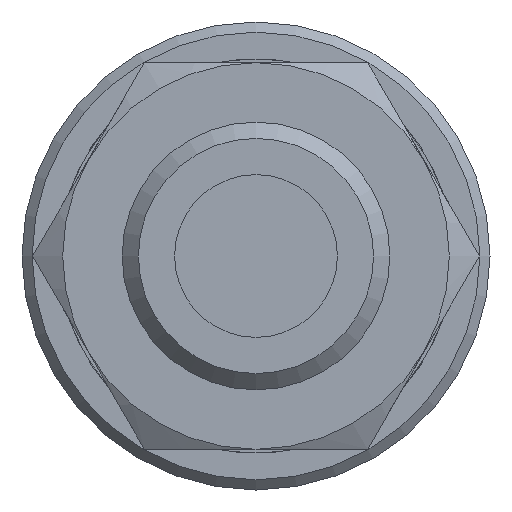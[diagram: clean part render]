
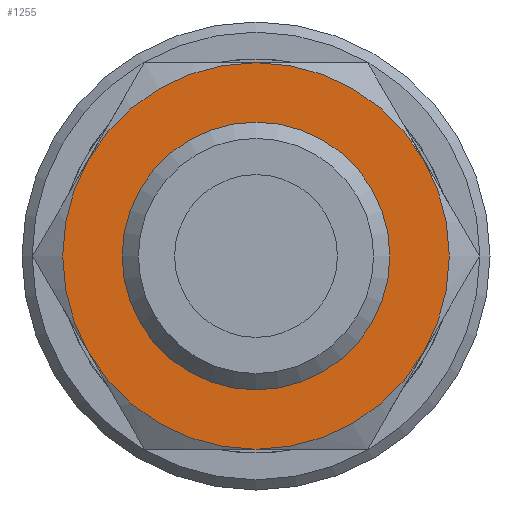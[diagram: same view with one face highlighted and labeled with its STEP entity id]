
A CAD part, left-side view. The second image highlights one B-rep face of the part: STEP entity #1255.
In plain terms, the highlighted planar face has unit normal (-1, 0, 0).
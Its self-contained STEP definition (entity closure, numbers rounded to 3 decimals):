
#68=FACE_BOUND('',#252,.T.);
#95=PLANE('',#1454);
#167=FACE_OUTER_BOUND('',#251,.T.);
#251=EDGE_LOOP('',(#1148,#1149,#1150,#1151,#1152,#1153));
#252=EDGE_LOOP('',(#1154,#1155));
#434=CIRCLE('',#1370,6.579);
#435=CIRCLE('',#1371,6.579);
#449=CIRCLE('',#1398,9.5);
#450=CIRCLE('',#1400,9.5);
#451=CIRCLE('',#1402,9.5);
#452=CIRCLE('',#1404,9.5);
#453=CIRCLE('',#1406,9.5);
#454=CIRCLE('',#1408,9.5);
#541=VERTEX_POINT('',#2051);
#542=VERTEX_POINT('',#2052);
#562=VERTEX_POINT('',#2149);
#563=VERTEX_POINT('',#2153);
#565=VERTEX_POINT('',#2160);
#567=VERTEX_POINT('',#2170);
#569=VERTEX_POINT('',#2183);
#571=VERTEX_POINT('',#2193);
#676=EDGE_CURVE('',#541,#542,#434,.T.);
#677=EDGE_CURVE('',#542,#541,#435,.T.);
#718=EDGE_CURVE('',#562,#563,#449,.T.);
#721=EDGE_CURVE('',#565,#562,#450,.T.);
#724=EDGE_CURVE('',#567,#565,#451,.T.);
#726=EDGE_CURVE('',#569,#567,#452,.T.);
#729=EDGE_CURVE('',#571,#569,#453,.T.);
#732=EDGE_CURVE('',#563,#571,#454,.T.);
#1148=ORIENTED_EDGE('',*,*,#732,.T.);
#1149=ORIENTED_EDGE('',*,*,#729,.T.);
#1150=ORIENTED_EDGE('',*,*,#726,.T.);
#1151=ORIENTED_EDGE('',*,*,#724,.T.);
#1152=ORIENTED_EDGE('',*,*,#721,.T.);
#1153=ORIENTED_EDGE('',*,*,#718,.T.);
#1154=ORIENTED_EDGE('',*,*,#676,.T.);
#1155=ORIENTED_EDGE('',*,*,#677,.T.);
#1255=ADVANCED_FACE('',(#167,#68),#95,.T.);
#1370=AXIS2_PLACEMENT_3D('',#2053,#1662,#1663);
#1371=AXIS2_PLACEMENT_3D('',#2054,#1664,#1665);
#1398=AXIS2_PLACEMENT_3D('',#2157,#1731,#1732);
#1400=AXIS2_PLACEMENT_3D('',#2167,#1735,#1736);
#1402=AXIS2_PLACEMENT_3D('',#2177,#1739,#1740);
#1404=AXIS2_PLACEMENT_3D('',#2184,#1743,#1744);
#1406=AXIS2_PLACEMENT_3D('',#2194,#1747,#1748);
#1408=AXIS2_PLACEMENT_3D('',#2203,#1751,#1752);
#1454=AXIS2_PLACEMENT_3D('',#2298,#1870,#1871);
#1662=DIRECTION('center_axis',(1.,0.,0.));
#1663=DIRECTION('ref_axis',(0.,0.,-1.));
#1664=DIRECTION('center_axis',(1.,0.,0.));
#1665=DIRECTION('ref_axis',(0.,0.,-1.));
#1731=DIRECTION('center_axis',(-1.,0.,0.));
#1732=DIRECTION('ref_axis',(0.,1.,0.));
#1735=DIRECTION('center_axis',(-1.,0.,0.));
#1736=DIRECTION('ref_axis',(0.,1.,0.));
#1739=DIRECTION('center_axis',(-1.,0.,0.));
#1740=DIRECTION('ref_axis',(0.,1.,0.));
#1743=DIRECTION('center_axis',(-1.,0.,0.));
#1744=DIRECTION('ref_axis',(0.,1.,0.));
#1747=DIRECTION('center_axis',(-1.,0.,0.));
#1748=DIRECTION('ref_axis',(0.,1.,0.));
#1751=DIRECTION('center_axis',(-1.,0.,0.));
#1752=DIRECTION('ref_axis',(0.,1.,0.));
#1870=DIRECTION('center_axis',(-1.,0.,0.));
#1871=DIRECTION('ref_axis',(0.,0.,1.));
#2051=CARTESIAN_POINT('',(-17.75,6.579,0.));
#2052=CARTESIAN_POINT('',(-17.75,-6.579,0.));
#2053=CARTESIAN_POINT('Origin',(-17.75,0.,0.));
#2054=CARTESIAN_POINT('Origin',(-17.75,0.,0.));
#2149=CARTESIAN_POINT('',(-17.75,-8.227,4.75));
#2153=CARTESIAN_POINT('',(-17.75,0.,9.5));
#2157=CARTESIAN_POINT('Origin',(-17.75,0.,0.));
#2160=CARTESIAN_POINT('',(-17.75,-8.227,-4.75));
#2167=CARTESIAN_POINT('Origin',(-17.75,0.,0.));
#2170=CARTESIAN_POINT('',(-17.75,0.,-9.5));
#2177=CARTESIAN_POINT('Origin',(-17.75,0.,0.));
#2183=CARTESIAN_POINT('',(-17.75,8.227,-4.75));
#2184=CARTESIAN_POINT('Origin',(-17.75,0.,0.));
#2193=CARTESIAN_POINT('',(-17.75,8.227,4.75));
#2194=CARTESIAN_POINT('Origin',(-17.75,0.,0.));
#2203=CARTESIAN_POINT('Origin',(-17.75,0.,0.));
#2298=CARTESIAN_POINT('Origin',(-17.75,9.5,0.));
